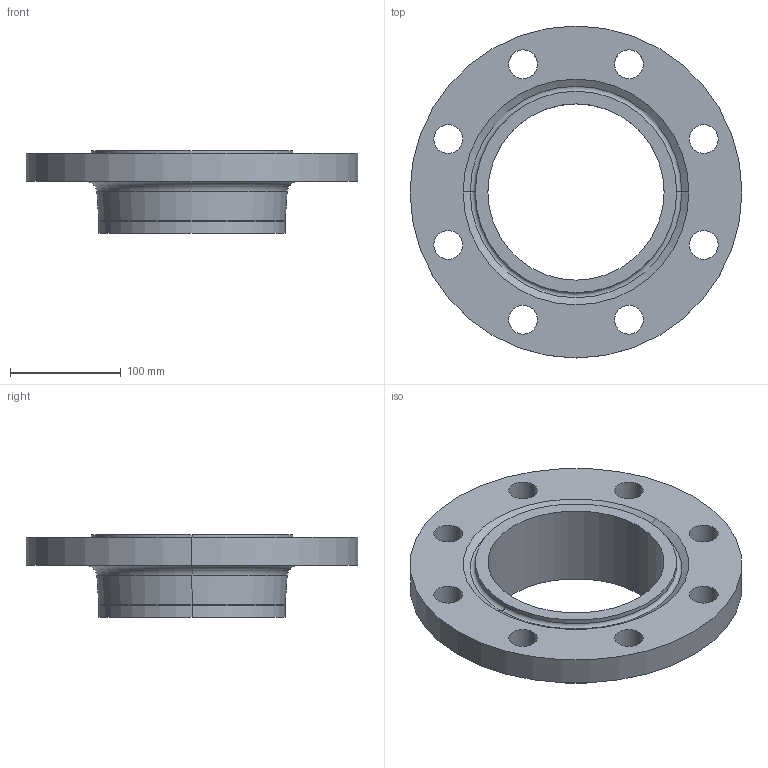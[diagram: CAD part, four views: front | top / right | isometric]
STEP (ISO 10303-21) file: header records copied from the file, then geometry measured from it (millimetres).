
FILE_DESCRIPTION (( 'STEP AP214' ), '1' );
FILE_NAME ('PN40 DN150 Type 11 - Type H Face.STEP', '2019-01-05T00:09:45', ( '' ), ( '' ), 'SwSTEP 2.0', 'SolidWorks 2019', '' );
FILE_SCHEMA (( 'AUTOMOTIVE_DESIGN' ));
Length unit declared in the file: millimetre
Products named in the file (1): PN40 DN150 Type 11 - Type H Face
Bounding box: 300 x 300 x 75 mm (x, y, z)
Volume: 1325283.3 mm3; surface area: 197176.8 mm2
Topology: 1 solids, 1 shells, 38 faces, 92 edges, 58 vertices
Faces by surface type: cylinder 24, torus 6, cone 4, plane 4
Entity records: 1210 total; most frequent: DIRECTION 234, CARTESIAN_POINT 189, ORIENTED_EDGE 184, AXIS2_PLACEMENT_3D 103, EDGE_CURVE 92, CIRCLE 64, EDGE_LOOP 58, VERTEX_POINT 58
